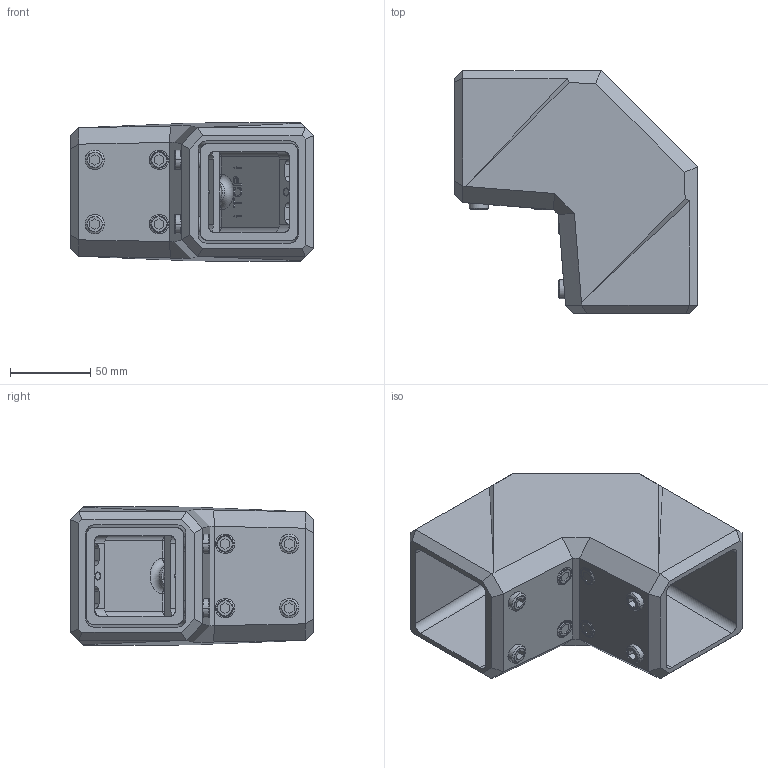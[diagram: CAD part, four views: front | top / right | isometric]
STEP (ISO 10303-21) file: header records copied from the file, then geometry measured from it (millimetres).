
FILE_DESCRIPTION((''),'2;1');
FILE_NAME('1016707000_ASM','2025-09-08T11:00:03',('silke.otte'),(''),'CREO PARAMETRIC BY PTC INC, 2022124','CREO PARAMETRIC BY PTC INC, 2022124','');
FILE_SCHEMA(('AUTOMOTIVE_DESIGN { 1 0 10303 214 1 1 1 1 }'));
Length unit declared in the file: millimetre
Products named in the file (10): 9324140000_AF0; 9620245000_ASM; 9620421000_ASM; 9263034000; 9324042000; 9231550000; 9805173000_ASM; 9261331000; 9231015000; 1016707000_ASM
Assembly tree (18 placements, depth 4):
  1016707000_ASM
    9620421000_ASM
      9620245000_ASM
        9324140000_AF0
    9263034000  x8
    9805173000_ASM
      9324042000
      9231550000
    9261331000  x2
    9231015000  x2
Bounding box: 151 x 151 x 86 mm (x, y, z)
Volume: 615223 mm3; surface area: 159417.2 mm2
Topology: 15 solids, 35 shells, 799 faces, 1984 edges, 1227 vertices
Faces by surface type: plane 489, cylinder 204, cone 68, bspline 24, torus 10, sphere 4
Entity records: 28358 total; most frequent: CARTESIAN_POINT 5386, DIRECTION 3024, ORIENTED_EDGE 2832, PRESENTATION_STYLE_ASSIGNMENT 1447, STYLED_ITEM 1447, CURVE_STYLE 1439, EDGE_CURVE 1420, VECTOR 1079
